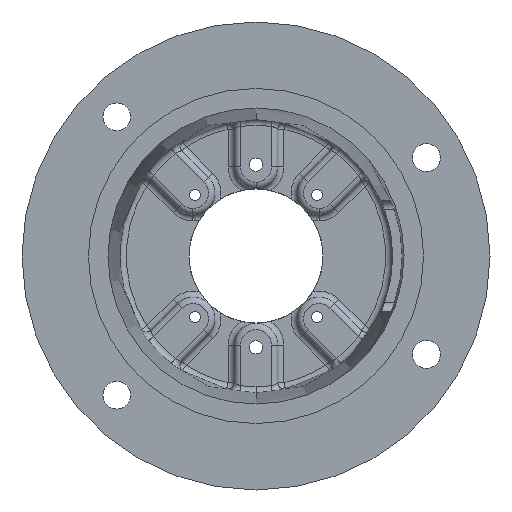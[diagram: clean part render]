
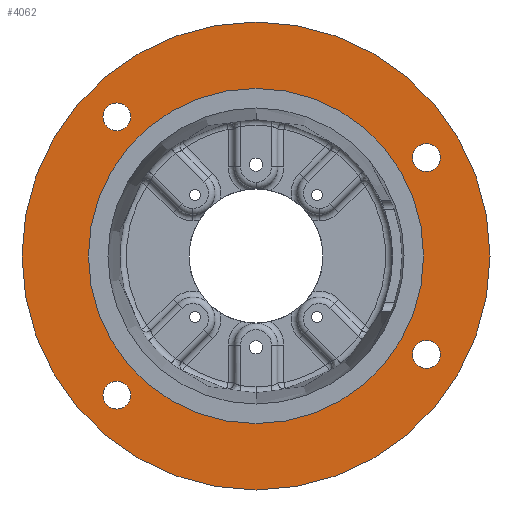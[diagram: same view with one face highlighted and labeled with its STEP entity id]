
A CAD part, front view. The second image highlights one B-rep face of the part: STEP entity #4062.
In plain terms, the highlighted planar face has unit normal (0, -1, 0).
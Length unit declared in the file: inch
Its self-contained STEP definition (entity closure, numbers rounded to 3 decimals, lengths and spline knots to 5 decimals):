
#90 = CARTESIAN_POINT ( 'NONE',  ( -3.27037, 0., 2.94224 ) ) ;
#98 = CARTESIAN_POINT ( 'NONE',  ( 0., 0., 5.5 ) ) ;
#276 = CARTESIAN_POINT ( 'NONE',  ( -3.27037, 0., -2.94224 ) ) ;
#435 = DIRECTION ( 'NONE',  ( 0., 0., -1. ) ) ;
#448 = AXIS2_PLACEMENT_3D ( 'NONE', #2988, #10231, #4066 ) ;
#479 = DIRECTION ( 'NONE',  ( 0., -1., 0. ) ) ;
#532 = CARTESIAN_POINT ( 'NONE',  ( -3.27037, 0., -3.27037 ) ) ;
#578 = VERTEX_POINT ( 'NONE', #276 ) ;
#656 = CARTESIAN_POINT ( 'NONE',  ( -3.27037, 0., 3.27037 ) ) ;
#692 = FACE_BOUND ( 'NONE', #5755, .T. ) ;
#880 = DIRECTION ( 'NONE',  ( 0., 0., -1. ) ) ;
#931 = AXIS2_PLACEMENT_3D ( 'NONE', #656, #8011, #1715 ) ;
#1088 = DIRECTION ( 'NONE',  ( 0., 0., -1. ) ) ;
#1115 = DIRECTION ( 'NONE',  ( 0., -1., 0. ) ) ;
#1144 = EDGE_CURVE ( 'NONE', #7363, #3002, #13067, .T. ) ;
#1172 = AXIS2_PLACEMENT_3D ( 'NONE', #4319, #11514, #5366 ) ;
#1181 = CARTESIAN_POINT ( 'NONE',  ( 0., 0., -3.9385 ) ) ;
#1207 = CARTESIAN_POINT ( 'NONE',  ( 4.00537, 0., -2.3125 ) ) ;
#1585 = DIRECTION ( 'NONE',  ( 0., 0., -1. ) ) ;
#1589 = DIRECTION ( 'NONE',  ( 0., -1., 0. ) ) ;
#1608 = CARTESIAN_POINT ( 'NONE',  ( 4.00537, 0., 2.3125 ) ) ;
#1715 = DIRECTION ( 'NONE',  ( 0., 0., -1. ) ) ;
#2003 = CIRCLE ( 'NONE', #931, 0.32812 ) ;
#2158 = AXIS2_PLACEMENT_3D ( 'NONE', #9717, #3539, #10747 ) ;
#2251 = ORIENTED_EDGE ( 'NONE', *, *, #8204, .F. ) ;
#2477 = DIRECTION ( 'NONE',  ( 0., -1., 0. ) ) ;
#2487 = PLANE ( 'NONE',  #6905 ) ;
#2618 = DIRECTION ( 'NONE',  ( 0., -1., 0. ) ) ;
#2780 = EDGE_CURVE ( 'NONE', #10577, #7029, #7147, .T. ) ;
#2988 = CARTESIAN_POINT ( 'NONE',  ( 0., 0., 0. ) ) ;
#3002 = VERTEX_POINT ( 'NONE', #7629 ) ;
#3025 = EDGE_LOOP ( 'NONE', ( #3572, #2251 ) ) ;
#3329 = ORIENTED_EDGE ( 'NONE', *, *, #6704, .F. ) ;
#3492 = FACE_BOUND ( 'NONE', #3025, .T. ) ;
#3539 = DIRECTION ( 'NONE',  ( 0., -1., 0. ) ) ;
#3572 = ORIENTED_EDGE ( 'NONE', *, *, #6627, .F. ) ;
#3688 = CIRCLE ( 'NONE', #9872, 0.32812 ) ;
#3818 = EDGE_CURVE ( 'NONE', #578, #12445, #3688, .T. ) ;
#3850 = CIRCLE ( 'NONE', #12472, 3.9385 ) ;
#3851 = FACE_BOUND ( 'NONE', #8264, .T. ) ;
#4062 = ADVANCED_FACE ( 'NONE', ( #6323, #3851, #9043, #3492, #692, #11409 ), #2487, .F. ) ;
#4066 = DIRECTION ( 'NONE',  ( 0., 0., -1. ) ) ;
#4319 = CARTESIAN_POINT ( 'NONE',  ( 0., 0., 0. ) ) ;
#4389 = VERTEX_POINT ( 'NONE', #6099 ) ;
#4434 = ORIENTED_EDGE ( 'NONE', *, *, #1144, .F. ) ;
#4805 = EDGE_CURVE ( 'NONE', #4389, #8944, #6643, .T. ) ;
#4827 = CIRCLE ( 'NONE', #2158, 0.32812 ) ;
#4973 = ORIENTED_EDGE ( 'NONE', *, *, #10303, .F. ) ;
#5108 = ORIENTED_EDGE ( 'NONE', *, *, #6738, .F. ) ;
#5366 = DIRECTION ( 'NONE',  ( 0., 0., -1. ) ) ;
#5706 = DIRECTION ( 'NONE',  ( 0., -1., 0. ) ) ;
#5755 = EDGE_LOOP ( 'NONE', ( #11909, #5108 ) ) ;
#5762 = EDGE_CURVE ( 'NONE', #12445, #578, #10956, .T. ) ;
#5877 = CARTESIAN_POINT ( 'NONE',  ( 0., 0., 0. ) ) ;
#6099 = CARTESIAN_POINT ( 'NONE',  ( 0., 0., -5.5 ) ) ;
#6126 = CARTESIAN_POINT ( 'NONE',  ( 4.00537, 0., -2.64063 ) ) ;
#6314 = AXIS2_PLACEMENT_3D ( 'NONE', #8722, #2477, #9723 ) ;
#6323 = FACE_BOUND ( 'NONE', #12601, .T. ) ;
#6608 = CARTESIAN_POINT ( 'NONE',  ( 4.00537, 0., -1.98438 ) ) ;
#6627 = EDGE_CURVE ( 'NONE', #6968, #11130, #9970, .T. ) ;
#6643 = CIRCLE ( 'NONE', #448, 5.5 ) ;
#6704 = EDGE_CURVE ( 'NONE', #3002, #7363, #12394, .T. ) ;
#6717 = ORIENTED_EDGE ( 'NONE', *, *, #3818, .F. ) ;
#6738 = EDGE_CURVE ( 'NONE', #7815, #9745, #3850, .T. ) ;
#6844 = CARTESIAN_POINT ( 'NONE',  ( 4.00537, 0., 1.98437 ) ) ;
#6905 = AXIS2_PLACEMENT_3D ( 'NONE', #11533, #11716, #11670 ) ;
#6906 = DIRECTION ( 'NONE',  ( 0., 0., -1. ) ) ;
#6968 = VERTEX_POINT ( 'NONE', #90 ) ;
#6975 = CIRCLE ( 'NONE', #10328, 3.9385 ) ;
#7029 = VERTEX_POINT ( 'NONE', #6608 ) ;
#7147 = CIRCLE ( 'NONE', #11226, 0.32812 ) ;
#7195 = DIRECTION ( 'NONE',  ( 0., -1., 0. ) ) ;
#7363 = VERTEX_POINT ( 'NONE', #6844 ) ;
#7408 = CARTESIAN_POINT ( 'NONE',  ( -3.27037, 0., -3.59849 ) ) ;
#7490 = EDGE_CURVE ( 'NONE', #9745, #7815, #6975, .T. ) ;
#7629 = CARTESIAN_POINT ( 'NONE',  ( 4.00537, 0., 2.64062 ) ) ;
#7815 = VERTEX_POINT ( 'NONE', #10092 ) ;
#7928 = EDGE_CURVE ( 'NONE', #8944, #4389, #12240, .T. ) ;
#8011 = DIRECTION ( 'NONE',  ( 0., -1., 0. ) ) ;
#8204 = EDGE_CURVE ( 'NONE', #11130, #6968, #2003, .T. ) ;
#8264 = EDGE_LOOP ( 'NONE', ( #12578, #4973 ) ) ;
#8357 = AXIS2_PLACEMENT_3D ( 'NONE', #8858, #2618, #9873 ) ;
#8722 = CARTESIAN_POINT ( 'NONE',  ( -3.27037, 0., 3.27037 ) ) ;
#8858 = CARTESIAN_POINT ( 'NONE',  ( 4.00537, 0., 2.3125 ) ) ;
#8944 = VERTEX_POINT ( 'NONE', #98 ) ;
#9043 = FACE_BOUND ( 'NONE', #11596, .T. ) ;
#9347 = AXIS2_PLACEMENT_3D ( 'NONE', #1608, #1589, #1585 ) ;
#9717 = CARTESIAN_POINT ( 'NONE',  ( 4.00537, 0., -2.3125 ) ) ;
#9723 = DIRECTION ( 'NONE',  ( 0., 0., -1. ) ) ;
#9745 = VERTEX_POINT ( 'NONE', #1181 ) ;
#9872 = AXIS2_PLACEMENT_3D ( 'NONE', #532, #479, #435 ) ;
#9873 = DIRECTION ( 'NONE',  ( 0., 0., -1. ) ) ;
#9970 = CIRCLE ( 'NONE', #6314, 0.32812 ) ;
#10092 = CARTESIAN_POINT ( 'NONE',  ( 0., 0., 3.9385 ) ) ;
#10231 = DIRECTION ( 'NONE',  ( 0., -1., 0. ) ) ;
#10303 = EDGE_CURVE ( 'NONE', #7029, #10577, #4827, .T. ) ;
#10328 = AXIS2_PLACEMENT_3D ( 'NONE', #13299, #7195, #880 ) ;
#10374 = CARTESIAN_POINT ( 'NONE',  ( -3.27037, 0., 3.59849 ) ) ;
#10577 = VERTEX_POINT ( 'NONE', #6126 ) ;
#10747 = DIRECTION ( 'NONE',  ( 0., 0., -1. ) ) ;
#10841 = ORIENTED_EDGE ( 'NONE', *, *, #7928, .T. ) ;
#10956 = CIRCLE ( 'NONE', #12223, 0.32812 ) ;
#11130 = VERTEX_POINT ( 'NONE', #10374 ) ;
#11226 = AXIS2_PLACEMENT_3D ( 'NONE', #1207, #1115, #1088 ) ;
#11409 = FACE_OUTER_BOUND ( 'NONE', #11985, .T. ) ;
#11514 = DIRECTION ( 'NONE',  ( 0., -1., 0. ) ) ;
#11533 = CARTESIAN_POINT ( 'NONE',  ( -5.5, 0., 0. ) ) ;
#11596 = EDGE_LOOP ( 'NONE', ( #13102, #6717 ) ) ;
#11670 = DIRECTION ( 'NONE',  ( 0., 0., 1. ) ) ;
#11716 = DIRECTION ( 'NONE',  ( 0., 1., 0. ) ) ;
#11836 = CARTESIAN_POINT ( 'NONE',  ( -3.27037, 0., -3.27037 ) ) ;
#11909 = ORIENTED_EDGE ( 'NONE', *, *, #7490, .F. ) ;
#11985 = EDGE_LOOP ( 'NONE', ( #13367, #10841 ) ) ;
#12223 = AXIS2_PLACEMENT_3D ( 'NONE', #11836, #5706, #12846 ) ;
#12240 = CIRCLE ( 'NONE', #1172, 5.5 ) ;
#12394 = CIRCLE ( 'NONE', #8357, 0.32812 ) ;
#12445 = VERTEX_POINT ( 'NONE', #7408 ) ;
#12472 = AXIS2_PLACEMENT_3D ( 'NONE', #5877, #13014, #6906 ) ;
#12578 = ORIENTED_EDGE ( 'NONE', *, *, #2780, .F. ) ;
#12601 = EDGE_LOOP ( 'NONE', ( #4434, #3329 ) ) ;
#12846 = DIRECTION ( 'NONE',  ( 0., 0., -1. ) ) ;
#13014 = DIRECTION ( 'NONE',  ( 0., -1., 0. ) ) ;
#13067 = CIRCLE ( 'NONE', #9347, 0.32812 ) ;
#13102 = ORIENTED_EDGE ( 'NONE', *, *, #5762, .F. ) ;
#13299 = CARTESIAN_POINT ( 'NONE',  ( 0., 0., 0. ) ) ;
#13367 = ORIENTED_EDGE ( 'NONE', *, *, #4805, .T. ) ;
